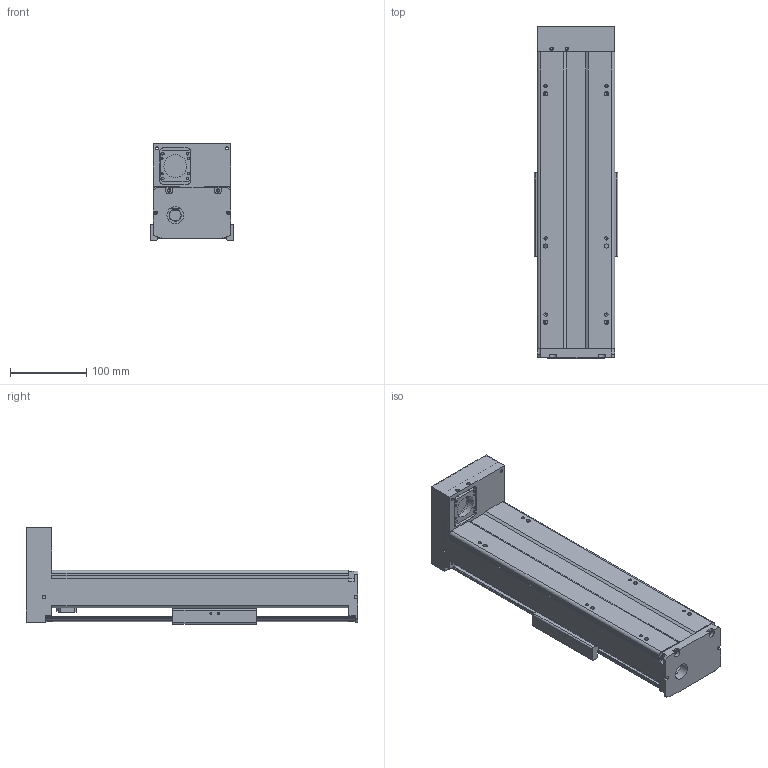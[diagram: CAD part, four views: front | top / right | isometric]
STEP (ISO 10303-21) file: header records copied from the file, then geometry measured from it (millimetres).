
FILE_DESCRIPTION(/* description */ (''),/* implementation_level */ '2;1');
FILE_NAME(/* name */ 'TKA100-FD-200_asm1.stp',/* time_stamp */ '2016-05-16T15:10:46+08:00',/* author */ (''),/* organization */ (''),/* preprocessor_version */ 'ST-DEVELOPER v15',/* originating_system */ 'SIEMENS PLM Software NX 8.5',/* authorisation */ '');
FILE_SCHEMA (('AUTOMOTIVE_DESIGN { 1 0 10303 214 3 1 1 1 }'));
Length unit declared in the file: millimetre
Products named in the file (3): 200-02; 200-01; TKA100-FD-200_asm1
Assembly tree (2 placements, depth 2):
  TKA100-FD-200_asm1
    200-01
    200-02
Bounding box: 110 x 436 x 127 mm (x, y, z)
Volume: 1157925.4 mm3; surface area: 404914.2 mm2
Topology: 2 solids, 8 shells, 759 faces, 1972 edges, 1278 vertices
Faces by surface type: cylinder 291, plane 289, cone 115, torus 38, bspline 26
Full cylindrical faces by diameter (mm): 2.5 x6, 2.6 x8, 3.3 x10, 3.4 x8, 3.8 x8, 4.2 x15, 4.3 x4, 4.5 x8, 5 x1, 5.5 x16, 6.6 x4, 8 x5, 9 x4, 10 x8, 11 x4, 12 x7, 15.3 x1, 16 x1, 22 x1, 24 x1, 28 x4, 30 x1, 33 x1
Entity records: 27660 total; most frequent: CARTESIAN_POINT 9929, DIRECTION 3692, ORIENTED_EDGE 3406, EDGE_CURVE 1703, AXIS2_PLACEMENT_3D 1463, VERTEX_POINT 1205, EDGE_LOOP 1066, LINE 766
